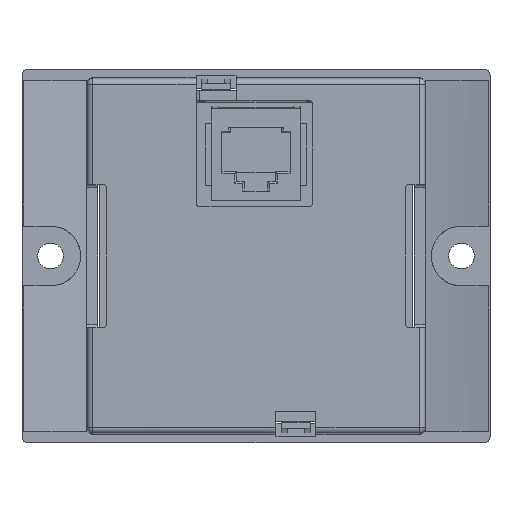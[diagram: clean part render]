
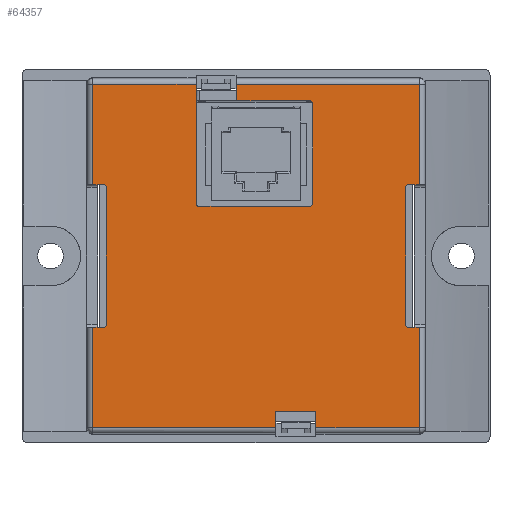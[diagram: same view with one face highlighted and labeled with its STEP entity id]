
A CAD part, front view. The second image highlights one B-rep face of the part: STEP entity #64357.
In plain terms, the highlighted planar face has unit normal (0, -1, 0).
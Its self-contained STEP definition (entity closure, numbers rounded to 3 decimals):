
#60907=DIRECTION('',(1.,0.,0.));
#60908=VECTOR('',#60907,1.915);
#60909=CARTESIAN_POINT('',(-28.615,-10.7,12.5));
#60910=LINE('',#60909,#60908);
#60915=DIRECTION('',(0.,0.,-1.));
#60916=VECTOR('',#60915,17.615);
#60917=CARTESIAN_POINT('',(-28.615,-10.7,30.115));
#60918=LINE('',#60917,#60916);
#60946=DIRECTION('',(-1.,0.,0.));
#60947=VECTOR('',#60946,18.115);
#60948=CARTESIAN_POINT('',(-10.5,-10.7,30.115));
#60949=LINE('',#60948,#60947);
#60954=CARTESIAN_POINT('',(-3.,-10.7,27.7));
#60955=DIRECTION('',(0.,1.,0.));
#60956=DIRECTION('',(0.,0.,-1.));
#60957=AXIS2_PLACEMENT_3D('',#60954,#60955,#60956);
#60959=DIRECTION('',(-1.,0.,0.));
#60960=VECTOR('',#60959,1.915);
#60961=CARTESIAN_POINT('',(28.615,-10.7,12.5));
#60962=LINE('',#60961,#60960);
#60963=CARTESIAN_POINT('',(26.7,-10.7,12.));
#60964=DIRECTION('',(0.,-1.,0.));
#60965=DIRECTION('',(0.,0.,1.));
#60966=AXIS2_PLACEMENT_3D('',#60963,#60964,#60965);
#60968=DIRECTION('',(0.,0.,-1.));
#60969=VECTOR('',#60968,24.);
#60970=CARTESIAN_POINT('',(26.2,-10.7,12.));
#60971=LINE('',#60970,#60969);
#60972=CARTESIAN_POINT('',(26.7,-10.7,-12.));
#60973=DIRECTION('',(0.,-1.,0.));
#60974=DIRECTION('',(-1.,0.,0.));
#60975=AXIS2_PLACEMENT_3D('',#60972,#60973,#60974);
#60977=DIRECTION('',(1.,0.,0.));
#60978=VECTOR('',#60977,1.915);
#60979=CARTESIAN_POINT('',(-28.615,-10.7,-12.5));
#60980=LINE('',#60979,#60978);
#60981=CARTESIAN_POINT('',(-26.7,-10.7,-12.));
#60982=DIRECTION('',(0.,-1.,0.));
#60983=DIRECTION('',(0.,0.,-1.));
#60984=AXIS2_PLACEMENT_3D('',#60981,#60982,#60983);
#60986=DIRECTION('',(0.,0.,1.));
#60987=VECTOR('',#60986,24.);
#60988=CARTESIAN_POINT('',(-26.2,-10.7,-12.));
#60989=LINE('',#60988,#60987);
#60990=CARTESIAN_POINT('',(-26.7,-10.7,12.));
#60991=DIRECTION('',(0.,-1.,0.));
#60992=DIRECTION('',(1.,0.,0.));
#60993=AXIS2_PLACEMENT_3D('',#60990,#60991,#60992);
#60995=CARTESIAN_POINT('',(-10.,-10.7,9.2));
#60996=DIRECTION('',(0.,-1.,0.));
#60997=DIRECTION('',(-1.,0.,0.));
#60998=AXIS2_PLACEMENT_3D('',#60995,#60996,#60997);
#61000=CARTESIAN_POINT('',(9.4,-10.7,9.2));
#61001=DIRECTION('',(0.,-1.,0.));
#61002=DIRECTION('',(0.,0.,-1.));
#61003=AXIS2_PLACEMENT_3D('',#61000,#61001,#61002);
#61005=CARTESIAN_POINT('',(9.4,-10.7,26.7));
#61006=DIRECTION('',(0.,-1.,0.));
#61007=DIRECTION('',(1.,0.,0.));
#61008=AXIS2_PLACEMENT_3D('',#61005,#61006,#61007);
#61035=DIRECTION('',(0.,0.,-1.));
#61036=VECTOR('',#61035,2.415);
#61037=CARTESIAN_POINT('',(-3.5,-10.7,30.115));
#61038=LINE('',#61037,#61036);
#61104=DIRECTION('',(0.,0.,1.));
#61105=VECTOR('',#61104,20.915);
#61106=CARTESIAN_POINT('',(-10.5,-10.7,9.2));
#61107=LINE('',#61106,#61105);
#61141=DIRECTION('',(-1.,0.,0.));
#61142=VECTOR('',#61141,19.4);
#61143=CARTESIAN_POINT('',(9.4,-10.7,8.7));
#61144=LINE('',#61143,#61142);
#61153=DIRECTION('',(0.,0.,-1.));
#61154=VECTOR('',#61153,17.5);
#61155=CARTESIAN_POINT('',(9.9,-10.7,26.7));
#61156=LINE('',#61155,#61154);
#61165=DIRECTION('',(1.,0.,0.));
#61166=VECTOR('',#61165,12.4);
#61167=CARTESIAN_POINT('',(-3.,-10.7,27.2));
#61168=LINE('',#61167,#61166);
#61377=DIRECTION('',(-1.,0.,0.));
#61378=VECTOR('',#61377,32.115);
#61379=CARTESIAN_POINT('',(28.615,-10.7,30.115));
#61380=LINE('',#61379,#61378);
#61401=DIRECTION('',(0.,0.,1.));
#61402=VECTOR('',#61401,17.615);
#61403=CARTESIAN_POINT('',(28.615,-10.7,12.5));
#61404=LINE('',#61403,#61402);
#61552=DIRECTION('',(1.,0.,0.));
#61553=VECTOR('',#61552,18.115);
#61554=CARTESIAN_POINT('',(10.5,-10.7,-30.115));
#61555=LINE('',#61554,#61553);
#61589=DIRECTION('',(0.,0.,-1.));
#61590=VECTOR('',#61589,2.915);
#61591=CARTESIAN_POINT('',(10.5,-10.7,-27.2));
#61592=LINE('',#61591,#61590);
#61606=DIRECTION('',(0.,0.,1.));
#61607=VECTOR('',#61606,2.915);
#61608=CARTESIAN_POINT('',(3.5,-10.7,-30.115));
#61609=LINE('',#61608,#61607);
#61626=DIRECTION('',(1.,0.,0.));
#61627=VECTOR('',#61626,32.115);
#61628=CARTESIAN_POINT('',(-28.615,-10.7,-30.115));
#61629=LINE('',#61628,#61627);
#61662=DIRECTION('',(0.,0.,-1.));
#61663=VECTOR('',#61662,17.615);
#61664=CARTESIAN_POINT('',(-28.615,-10.7,-12.5));
#61665=LINE('',#61664,#61663);
#61670=DIRECTION('',(1.,0.,0.));
#61671=VECTOR('',#61670,7.);
#61672=CARTESIAN_POINT('',(3.5,-10.7,-27.2));
#61673=LINE('',#61672,#61671);
#61841=DIRECTION('',(0.,0.,1.));
#61842=VECTOR('',#61841,17.615);
#61843=CARTESIAN_POINT('',(28.615,-10.7,-30.115));
#61844=LINE('',#61843,#61842);
#61858=DIRECTION('',(-1.,0.,0.));
#61859=VECTOR('',#61858,1.915);
#61860=CARTESIAN_POINT('',(28.615,-10.7,-12.5));
#61861=LINE('',#61860,#61859);
#62374=CARTESIAN_POINT('',(-26.7,-10.7,-12.5));
#62375=VERTEX_POINT('',#62374);
#62376=CARTESIAN_POINT('',(-28.615,-10.7,-12.5));
#62377=VERTEX_POINT('',#62376);
#62395=CARTESIAN_POINT('',(-28.615,-10.7,12.5));
#62396=VERTEX_POINT('',#62395);
#62397=CARTESIAN_POINT('',(-26.7,-10.7,12.5));
#62398=VERTEX_POINT('',#62397);
#62399=CARTESIAN_POINT('',(-28.615,-10.7,30.115));
#62400=VERTEX_POINT('',#62399);
#62405=CARTESIAN_POINT('',(-10.5,-10.7,30.115));
#62406=VERTEX_POINT('',#62405);
#62407=CARTESIAN_POINT('',(-3.,-10.7,27.2));
#62408=CARTESIAN_POINT('',(-3.5,-10.7,27.7));
#62409=VERTEX_POINT('',#62407);
#62410=VERTEX_POINT('',#62408);
#62411=CARTESIAN_POINT('',(-3.5,-10.7,30.115));
#62412=VERTEX_POINT('',#62411);
#62413=CARTESIAN_POINT('',(28.615,-10.7,30.115));
#62414=VERTEX_POINT('',#62413);
#62415=CARTESIAN_POINT('',(28.615,-10.7,12.5));
#62416=VERTEX_POINT('',#62415);
#62417=CARTESIAN_POINT('',(26.7,-10.7,12.5));
#62418=VERTEX_POINT('',#62417);
#62419=CARTESIAN_POINT('',(26.2,-10.7,12.));
#62420=VERTEX_POINT('',#62419);
#62421=CARTESIAN_POINT('',(26.2,-10.7,-12.));
#62422=VERTEX_POINT('',#62421);
#62423=CARTESIAN_POINT('',(26.7,-10.7,-12.5));
#62424=VERTEX_POINT('',#62423);
#62425=CARTESIAN_POINT('',(28.615,-10.7,-12.5));
#62426=VERTEX_POINT('',#62425);
#62427=CARTESIAN_POINT('',(28.615,-10.7,-30.115));
#62428=VERTEX_POINT('',#62427);
#62429=CARTESIAN_POINT('',(10.5,-10.7,-30.115));
#62430=VERTEX_POINT('',#62429);
#62431=CARTESIAN_POINT('',(10.5,-10.7,-27.2));
#62432=VERTEX_POINT('',#62431);
#62433=CARTESIAN_POINT('',(3.5,-10.7,-27.2));
#62434=VERTEX_POINT('',#62433);
#62435=CARTESIAN_POINT('',(3.5,-10.7,-30.115));
#62436=VERTEX_POINT('',#62435);
#62437=CARTESIAN_POINT('',(-28.615,-10.7,-30.115));
#62438=VERTEX_POINT('',#62437);
#62439=CARTESIAN_POINT('',(-26.2,-10.7,-12.));
#62440=VERTEX_POINT('',#62439);
#62441=CARTESIAN_POINT('',(-26.2,-10.7,12.));
#62442=VERTEX_POINT('',#62441);
#62443=CARTESIAN_POINT('',(-10.5,-10.7,9.2));
#62444=VERTEX_POINT('',#62443);
#62445=CARTESIAN_POINT('',(-10.,-10.7,8.7));
#62446=VERTEX_POINT('',#62445);
#62447=CARTESIAN_POINT('',(9.4,-10.7,8.7));
#62448=VERTEX_POINT('',#62447);
#62449=CARTESIAN_POINT('',(9.9,-10.7,9.2));
#62450=VERTEX_POINT('',#62449);
#62451=CARTESIAN_POINT('',(9.9,-10.7,26.7));
#62452=VERTEX_POINT('',#62451);
#62453=CARTESIAN_POINT('',(9.4,-10.7,27.2));
#62454=VERTEX_POINT('',#62453);
#64294=CARTESIAN_POINT('',(0.,-10.7,-32.7));
#64295=DIRECTION('',(0.,-1.,0.));
#64296=DIRECTION('',(1.,0.,0.));
#64297=AXIS2_PLACEMENT_3D('',#64294,#64295,#64296);
#64298=PLANE('',#64297);
#64300=ORIENTED_EDGE('',*,*,#64299,.T.);
#64302=ORIENTED_EDGE('',*,*,#64301,.F.);
#64304=ORIENTED_EDGE('',*,*,#64303,.F.);
#64306=ORIENTED_EDGE('',*,*,#64305,.F.);
#64308=ORIENTED_EDGE('',*,*,#64307,.T.);
#64310=ORIENTED_EDGE('',*,*,#64309,.T.);
#64312=ORIENTED_EDGE('',*,*,#64311,.T.);
#64314=ORIENTED_EDGE('',*,*,#64313,.T.);
#64316=ORIENTED_EDGE('',*,*,#64315,.F.);
#64318=ORIENTED_EDGE('',*,*,#64317,.F.);
#64320=ORIENTED_EDGE('',*,*,#64319,.F.);
#64322=ORIENTED_EDGE('',*,*,#64321,.F.);
#64324=ORIENTED_EDGE('',*,*,#64323,.F.);
#64326=ORIENTED_EDGE('',*,*,#64325,.F.);
#64328=ORIENTED_EDGE('',*,*,#64327,.F.);
#64330=ORIENTED_EDGE('',*,*,#64329,.F.);
#64331=ORIENTED_EDGE('',*,*,#64127,.T.);
#64333=ORIENTED_EDGE('',*,*,#64332,.T.);
#64335=ORIENTED_EDGE('',*,*,#64334,.T.);
#64337=ORIENTED_EDGE('',*,*,#64336,.T.);
#64338=ORIENTED_EDGE('',*,*,#64217,.F.);
#64339=ORIENTED_EDGE('',*,*,#64235,.F.);
#64340=ORIENTED_EDGE('',*,*,#64285,.F.);
#64342=ORIENTED_EDGE('',*,*,#64341,.F.);
#64344=ORIENTED_EDGE('',*,*,#64343,.T.);
#64346=ORIENTED_EDGE('',*,*,#64345,.F.);
#64348=ORIENTED_EDGE('',*,*,#64347,.T.);
#64350=ORIENTED_EDGE('',*,*,#64349,.F.);
#64352=ORIENTED_EDGE('',*,*,#64351,.T.);
#64354=ORIENTED_EDGE('',*,*,#64353,.F.);
#64355=EDGE_LOOP('',(#64300,#64302,#64304,#64306,#64308,#64310,#64312,#64314,
#64316,#64318,#64320,#64322,#64324,#64326,#64328,#64330,#64331,#64333,#64335,
#64337,#64338,#64339,#64340,#64342,#64344,#64346,#64348,#64350,#64352,#64354));
#64356=FACE_OUTER_BOUND('',#64355,.F.);
#64357=ADVANCED_FACE('',(#64356),#64298,.T.);
#60958=CIRCLE('',#60957,0.5);
#60967=CIRCLE('',#60966,0.5);
#60976=CIRCLE('',#60975,0.5);
#60985=CIRCLE('',#60984,0.5);
#60994=CIRCLE('',#60993,0.5);
#60999=CIRCLE('',#60998,0.5);
#61004=CIRCLE('',#61003,0.5);
#61009=CIRCLE('',#61008,0.5);
#64127=EDGE_CURVE('',#62377,#62375,#60980,.T.);
#64217=EDGE_CURVE('',#62396,#62398,#60910,.T.);
#64235=EDGE_CURVE('',#62400,#62396,#60918,.T.);
#64285=EDGE_CURVE('',#62406,#62400,#60949,.T.);
#64299=EDGE_CURVE('',#62409,#62410,#60958,.T.);
#64301=EDGE_CURVE('',#62412,#62410,#61038,.T.);
#64303=EDGE_CURVE('',#62414,#62412,#61380,.T.);
#64305=EDGE_CURVE('',#62416,#62414,#61404,.T.);
#64307=EDGE_CURVE('',#62416,#62418,#60962,.T.);
#64309=EDGE_CURVE('',#62418,#62420,#60967,.T.);
#64311=EDGE_CURVE('',#62420,#62422,#60971,.T.);
#64313=EDGE_CURVE('',#62422,#62424,#60976,.T.);
#64315=EDGE_CURVE('',#62426,#62424,#61861,.T.);
#64317=EDGE_CURVE('',#62428,#62426,#61844,.T.);
#64319=EDGE_CURVE('',#62430,#62428,#61555,.T.);
#64321=EDGE_CURVE('',#62432,#62430,#61592,.T.);
#64323=EDGE_CURVE('',#62434,#62432,#61673,.T.);
#64325=EDGE_CURVE('',#62436,#62434,#61609,.T.);
#64327=EDGE_CURVE('',#62438,#62436,#61629,.T.);
#64329=EDGE_CURVE('',#62377,#62438,#61665,.T.);
#64332=EDGE_CURVE('',#62375,#62440,#60985,.T.);
#64334=EDGE_CURVE('',#62440,#62442,#60989,.T.);
#64336=EDGE_CURVE('',#62442,#62398,#60994,.T.);
#64341=EDGE_CURVE('',#62444,#62406,#61107,.T.);
#64343=EDGE_CURVE('',#62444,#62446,#60999,.T.);
#64345=EDGE_CURVE('',#62448,#62446,#61144,.T.);
#64347=EDGE_CURVE('',#62448,#62450,#61004,.T.);
#64349=EDGE_CURVE('',#62452,#62450,#61156,.T.);
#64351=EDGE_CURVE('',#62452,#62454,#61009,.T.);
#64353=EDGE_CURVE('',#62409,#62454,#61168,.T.);
